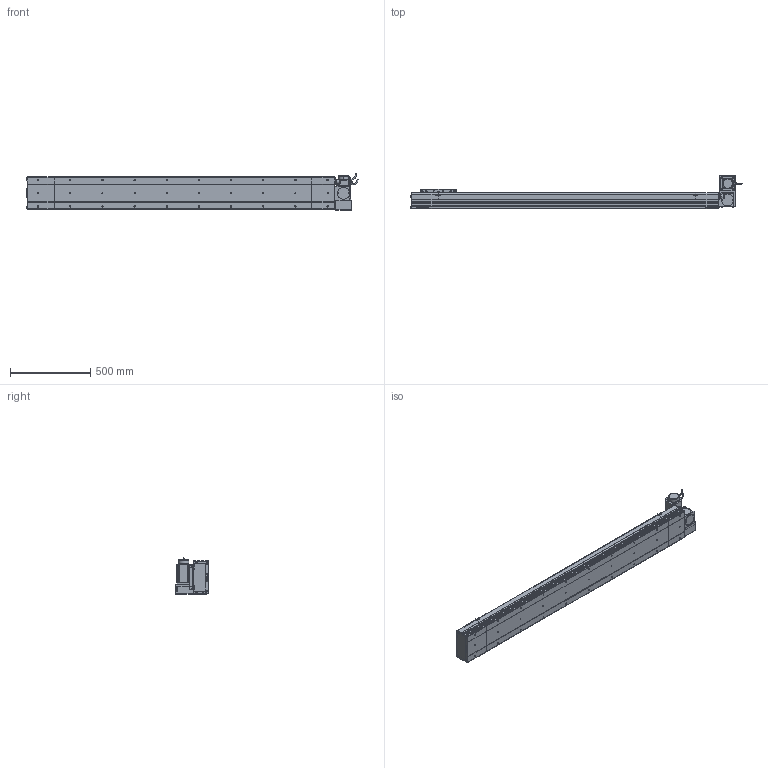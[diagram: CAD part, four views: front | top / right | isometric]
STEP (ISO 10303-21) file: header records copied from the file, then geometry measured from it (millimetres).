
FILE_DESCRIPTION (( 'STEP AP214' ), '1' );
FILE_NAME ('D20 CBH RT S1600.STEP', '2010-06-30T09:34:54', ( 'Conseil Régional Haute-Normandie' ), ( 'Conseil Régional Haute-Normandie' ), 'SwSTEP 2.0', 'SolidWorks 2010', '' );
FILE_SCHEMA (( 'AUTOMOTIVE_DESIGN' ));
Length unit declared in the file: millimetre
Products named in the file (31): Couvercle S1600_Default; Support Chariot D20_Default; Chariot D20_Default; Plaque De Serrage D20_Default; Glissiere_Default; vis M5 L15_Default; Plaque de Bout Tail D20_Default; Couvercle_Default; Corp Tail D20_Default; Tail D20_Default; Head RT_Default; D20 CBH RT S1600; Plaque de Bout Head D20 RT_Default; Couvercle RT_Default; Corp Tail D20 RT_Default; Moteur motionking 90BLDC125A-640; Support moteur RT_Default; Plaque De Serrage D20 RT_Default; codeur 90BLDC125-640; corps 90BLDC125A-640; avant 90BLDC125A-640; vis M5 L30_Default; Conecteur_Default; Conecteur2_Default; vis M5 L47_Default; Cache Support Moteur RT_Default; ecrou_Default; Corp S1600_Default; Corp D20 S1600_Default; Rondelle Cache D20 RT_Default
Assembly tree (68 placements, depth 4):
  D20 CBH RT S1600
    Chariot D20_Default
      vis M5 L15_Default  x8
      Glissiere_Default
      Support Chariot D20_Default
      Chariot D20_Default
    Head RT_Default
      Rondelle Cache D20 RT_Default  x3
      vis M5 L15_Default  x14
      vis M5 L47_Default  x4
      ecrou_Default  x4
      Cache Support Moteur RT_Default
      vis M5 L30_Default  x4
      Support moteur RT_Default
      Couvercle RT_Default
      Corp Tail D20 RT_Default
      Plaque de Bout Head D20 RT_Default
      Plaque De Serrage D20 RT_Default
      Moteur motionking 90BLDC125A-640
        Conecteur2_Default
        avant 90BLDC125A-640
        codeur 90BLDC125-640
        corps 90BLDC125A-640
        Conecteur_Default
    Corp D20 S1600_Default
      Couvercle S1600_Default
      Corp S1600_Default
    Tail D20_Default
      vis M5 L15_Default  x6
      Plaque De Serrage D20_Default
      Couvercle_Default
      Corp Tail D20_Default
      Plaque de Bout Tail D20_Default
Bounding box: 2064.45 x 206.5 x 229.7 mm (x, y, z)
Volume: 14397657.7 mm3; surface area: 2843538 mm2
Topology: 105 solids, 105 shells, 3799 faces, 9462 edges, 6142 vertices
Faces by surface type: plane 2122, bspline 806, cylinder 700, torus 95, cone 72, sphere 4
Entity records: 158942 total; most frequent: CARTESIAN_POINT 82235, ORIENTED_EDGE 15192, DIRECTION 11518, EDGE_CURVE 7596, VERTEX_POINT 5026, LINE 4924, VECTOR 4924, AXIS2_PLACEMENT_3D 3297
